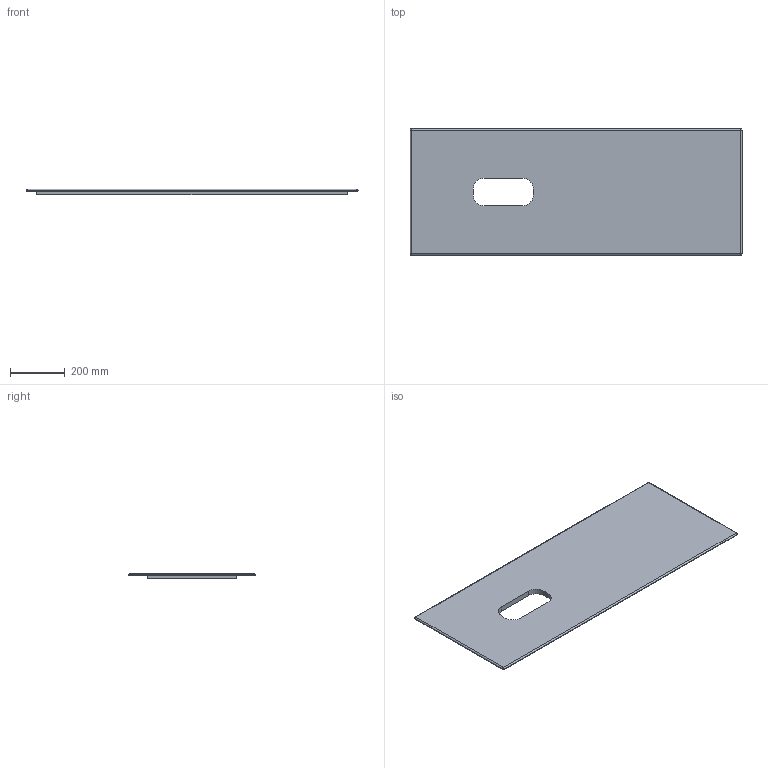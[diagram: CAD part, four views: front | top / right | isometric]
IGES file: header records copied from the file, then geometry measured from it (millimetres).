
Start section: START RECORD GO HERE.
Global section: file name: 3D ART 2055.igs; native system: DASSAULT SYSTEMES CATIA V5 R19 - www.3ds.com; preprocessor: CATIA Version 5 Release 19 SP 5 ; author: Luca; organization: DESKTOP-V7SON24; date: 20191030.174745; units: millimetre
Bounding box: 1210 x 460 x 20 mm (x, y, z)
Surface area: 1135184 mm2 (no closed solid volume)
Topology: 0 solids, 0 shells, 44 faces, 204 edges, 200 vertices
Faces by surface type: revolution 24, plane 20
